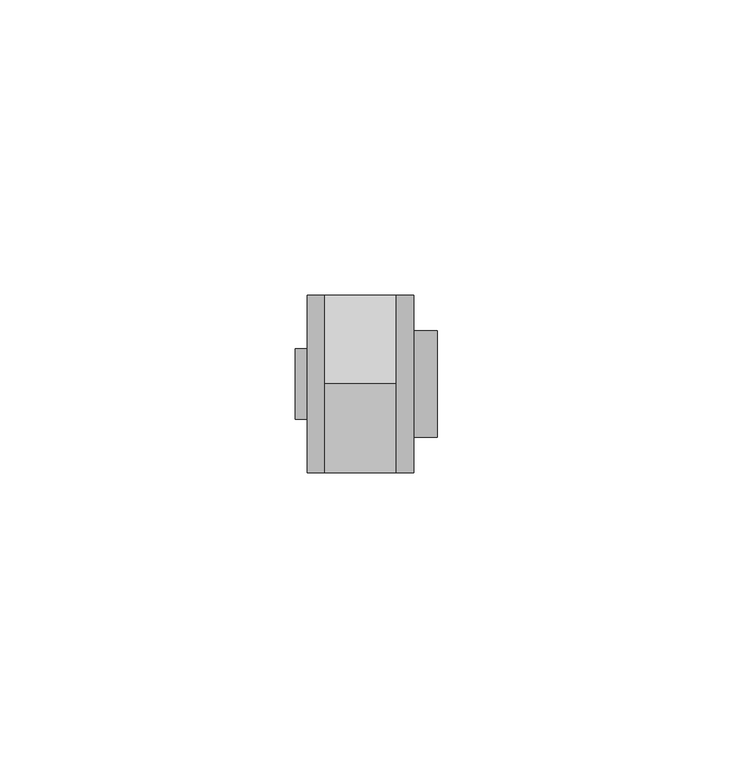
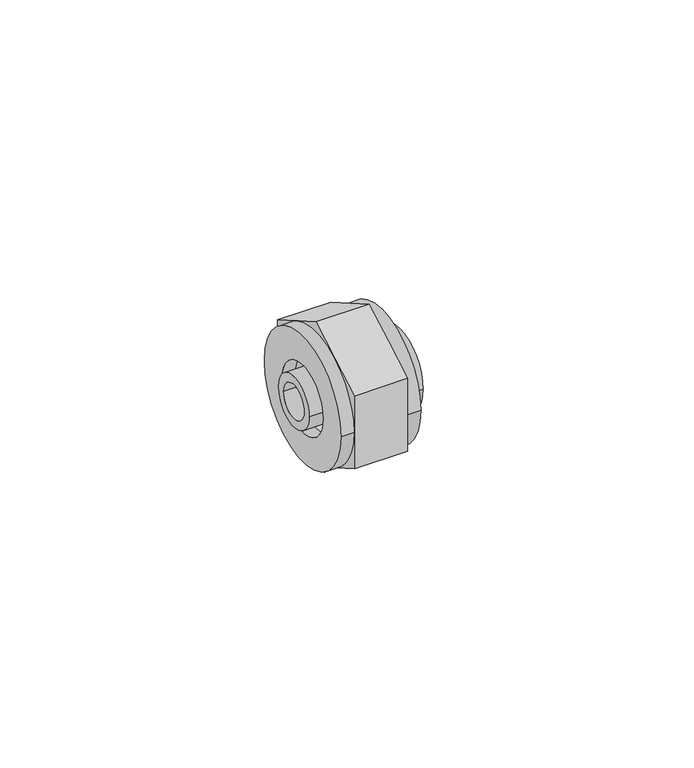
"""IFC4 building model written with IfcOpenShell, lengths in millimetres: pipe fitting geometry."""

from ifc_helpers import new_model, si_unit, point, frame, origin, origin_2d, place, context, project, spatial, polyline, circle_curve, trimmed, segment, composite_curve, outline, extrude, source, transform, mapped, element, save
from ifc_brep_helpers import plane_surface, cylinder_surface, revolved_surface, advanced_brep


def pipe_fitting_27357a6d(model_context):
    return source(origin(), model_context, "Body", "SolidModel", [
        extrude(outline(composite_curve([segment(trimmed(circle_curve(origin_2d(), 9.0), [point((-9.0, 0.0))], [point((9.0, 0.0))], False, "CARTESIAN"), True, "CONTINUOUS"), segment(trimmed(circle_curve(origin_2d(), 9.0), [point((9.0, 0.0))], [point((-9.0, 0.0))], False, "CARTESIAN"), True, "CONTINUOUS")], self_intersect=False), holes=[composite_curve([segment(trimmed(circle_curve(origin_2d(), 4.0), [point((4.0, 0.0))], [point((-4.0, 0.0))], True, "CARTESIAN"), True, "CONTINUOUS"), segment(trimmed(circle_curve(origin_2d(), 4.0), [point((-4.0, 0.0))], [point((4.0, 0.0))], True, "CARTESIAN"), True, "CONTINUOUS")], self_intersect=False)]), frame((0.0, 0.0, 0.0), z_axis=(1.0, 0.0, 0.0), x_axis=(0.0, 1.0, 0.0)), (0.0, 0.0, 1.0), 13.0),
        extrude(outline(composite_curve([segment(trimmed(circle_curve(origin_2d(), 6.0), [point((-6.0, 0.0))], [point((6.0, 0.0))], False, "CARTESIAN"), True, "CONTINUOUS"), segment(trimmed(circle_curve(origin_2d(), 6.0), [point((6.0, 0.0))], [point((-6.0, 0.0))], False, "CARTESIAN"), True, "CONTINUOUS")], self_intersect=False), holes=[composite_curve([segment(trimmed(circle_curve(origin_2d(), 4.0), [point((4.0, 0.0))], [point((-4.0, 0.0))], True, "CARTESIAN"), True, "CONTINUOUS"), segment(trimmed(circle_curve(origin_2d(), 4.0), [point((-4.0, 0.0))], [point((4.0, 0.0))], True, "CARTESIAN"), True, "CONTINUOUS")], self_intersect=False)]), frame((-11.0, 0.0, 0.0), z_axis=(1.0, 0.0, 0.0), x_axis=(0.0, 1.0, 0.0)), (0.0, 0.0, 1.0), 10.0),
        advanced_brep(
        [(-6.0, 0.0, -17.3205081), (-6.0, -7.5, -12.9903811), (-6.0, 7.5, -12.9903811), (-6.0, -15.0, -8.660254), (-6.0, -15.0, 0.0), (-6.0, -15.0, 8.660254), (-6.0, -7.5, 12.9903811), (-6.0, 0.0, 17.3205081), (-6.0, 7.5, 12.9903811), (-6.0, 15.0, 8.660254), (-6.0, 15.0, 0.0), (-6.0, 15.0, -8.660254), (6.0, 0.0, -17.3205081), (6.0, 7.5, -12.9903811), (6.0, -7.5, -12.9903811), (6.0, 15.0, -8.660254), (6.0, 15.0, 0.0), (6.0, 15.0, 8.660254), (6.0, 7.5, 12.9903811), (6.0, 0.0, 17.3205081), (6.0, -7.5, 12.9903811), (6.0, -15.0, 8.660254), (6.0, -15.0, 0.0), (6.0, -15.0, -8.660254), (9.0, -15.0, 0.0), (9.0, 15.0, 0.0), (9.0, -13.0, 0.0), (9.0, 13.0, 0.0), (-9.0, -15.0, 0.0), (-9.0, 15.0, 0.0), (-9.0, 8.0, 0.0), (-9.0, -8.0, 0.0), (0.0, -4.0, 0.0), (-1.0, -4.0, 0.0), (-1.0, 4.0, 0.0), (0.0, 4.0, 0.0), (0.0, -13.0, 0.0), (0.0, 13.0, 0.0), (-1.0, -8.0, 0.0), (-1.0, 8.0, 0.0), (-6.0, -8.0, 0.0), (-6.0, 8.0, 0.0)],
        [
            (0, 1),
            (1, 2, circle_curve(frame((-6.0, 0.0, 0.0), z_axis=(1.0, 0.0, 0.0), x_axis=(0.0, 1.0, 0.0)), 15.0)),
            (2, 0),
            (1, 3),
            (3, 4),
            (4, 1, circle_curve(frame((-6.0, 0.0, 0.0), z_axis=(1.0, 0.0, 0.0), x_axis=(0.0, 1.0, 0.0)), 15.0)),
            (4, 5),
            (5, 6),
            (6, 4, circle_curve(frame((-6.0, 0.0, 0.0), z_axis=(1.0, 0.0, 0.0), x_axis=(0.0, 1.0, 0.0)), 15.0)),
            (6, 7),
            (7, 8),
            (8, 6, circle_curve(frame((-6.0, 0.0, 0.0), z_axis=(1.0, 0.0, 0.0), x_axis=(0.0, 1.0, 0.0)), 15.0)),
            (8, 9),
            (9, 10),
            (10, 8, circle_curve(frame((-6.0, 0.0, 0.0), z_axis=(1.0, 0.0, 0.0), x_axis=(0.0, 1.0, 0.0)), 15.0)),
            (10, 11),
            (11, 2),
            (2, 10, circle_curve(frame((-6.0, 0.0, 0.0), z_axis=(1.0, 0.0, 0.0), x_axis=(0.0, 1.0, 0.0)), 15.0)),
            (12, 13),
            (13, 14, circle_curve(frame((6.0, 0.0, 0.0), z_axis=(-1.0, 0.0, 0.0), x_axis=(0.0, 1.0, 0.0)), 15.0)),
            (14, 12),
            (13, 15),
            (15, 16),
            (16, 13, circle_curve(frame((6.0, 0.0, 0.0), z_axis=(-1.0, 0.0, 0.0), x_axis=(0.0, 1.0, 0.0)), 15.0)),
            (16, 17),
            (17, 18),
            (18, 16, circle_curve(frame((6.0, 0.0, 0.0), z_axis=(-1.0, 0.0, 0.0), x_axis=(0.0, 1.0, 0.0)), 15.0)),
            (18, 19),
            (19, 20),
            (20, 18, circle_curve(frame((6.0, 0.0, 0.0), z_axis=(-1.0, 0.0, 0.0), x_axis=(0.0, 1.0, 0.0)), 15.0)),
            (20, 21),
            (21, 22),
            (22, 20, circle_curve(frame((6.0, 0.0, 0.0), z_axis=(-1.0, 0.0, 0.0), x_axis=(0.0, 1.0, 0.0)), 15.0)),
            (22, 23),
            (23, 14),
            (14, 22, circle_curve(frame((6.0, 0.0, 0.0), z_axis=(-1.0, 0.0, 0.0), x_axis=(0.0, 1.0, 0.0)), 15.0)),
            (0, 12),
            (23, 3),
            (21, 5),
            (19, 7),
            (17, 9),
            (15, 11),
            (24, 25, circle_curve(frame((9.0, 0.0, 0.0), z_axis=(1.0, 0.0, 0.0), x_axis=(0.0, 1.0, 0.0)), 15.0)),
            (25, 24, circle_curve(frame((9.0, 0.0, 0.0), z_axis=(1.0, 0.0, 0.0), x_axis=(0.0, 1.0, 0.0)), 15.0)),
            (26, 27, circle_curve(frame((9.0, 0.0, 0.0), z_axis=(-1.0, 0.0, 0.0), x_axis=(0.0, 1.0, 0.0)), 13.0)),
            (27, 26, circle_curve(frame((9.0, 0.0, 0.0), z_axis=(-1.0, 0.0, 0.0), x_axis=(0.0, 1.0, 0.0)), 13.0)),
            (25, 16),
            (22, 24),
            (28, 29, circle_curve(frame((-9.0, 0.0, 0.0), z_axis=(-1.0, 0.0, 0.0), x_axis=(0.0, 1.0, 0.0)), 15.0)),
            (29, 28, circle_curve(frame((-9.0, 0.0, 0.0), z_axis=(-1.0, 0.0, 0.0), x_axis=(0.0, 1.0, 0.0)), 15.0)),
            (30, 31, circle_curve(frame((-9.0, 0.0, 0.0), z_axis=(1.0, 0.0, 0.0), x_axis=(0.0, 1.0, 0.0)), 8.0)),
            (31, 30, circle_curve(frame((-9.0, 0.0, 0.0), z_axis=(1.0, 0.0, 0.0), x_axis=(0.0, 1.0, 0.0)), 8.0)),
            (32, 33),
            (33, 34, circle_curve(frame((-1.0, 0.0, 0.0), z_axis=(-1.0, 0.0, 0.0), x_axis=(0.0, 1.0, 0.0)), 4.0)),
            (34, 35),
            (35, 32, circle_curve(frame((0.0, 0.0, 0.0), z_axis=(1.0, 0.0, 0.0), x_axis=(0.0, 1.0, 0.0)), 4.0)),
            (32, 35, circle_curve(frame((0.0, 0.0, 0.0), z_axis=(1.0, 0.0, 0.0), x_axis=(0.0, 1.0, 0.0)), 4.0)),
            (34, 33, circle_curve(frame((-1.0, 0.0, 0.0), z_axis=(-1.0, 0.0, 0.0), x_axis=(0.0, 1.0, 0.0)), 4.0)),
            (28, 4),
            (10, 29),
            (36, 37, circle_curve(frame((0.0, 0.0, 0.0), z_axis=(1.0, 0.0, 0.0), x_axis=(0.0, 1.0, 0.0)), 13.0)),
            (37, 36, circle_curve(frame((0.0, 0.0, 0.0), z_axis=(1.0, 0.0, 0.0), x_axis=(0.0, 1.0, 0.0)), 13.0)),
            (37, 27),
            (26, 36),
            (38, 39, circle_curve(frame((-1.0, 0.0, 0.0), z_axis=(-1.0, 0.0, 0.0), x_axis=(0.0, 1.0, 0.0)), 8.0)),
            (39, 38, circle_curve(frame((-1.0, 0.0, 0.0), z_axis=(-1.0, 0.0, 0.0), x_axis=(0.0, 1.0, 0.0)), 8.0)),
            (38, 40),
            (40, 41, circle_curve(frame((-6.0, 0.0, 0.0), z_axis=(-1.0, 0.0, 0.0), x_axis=(0.0, 1.0, 0.0)), 8.0)),
            (41, 39),
            (41, 40, circle_curve(frame((-6.0, 0.0, 0.0), z_axis=(-1.0, 0.0, 0.0), x_axis=(0.0, 1.0, 0.0)), 8.0)),
            (40, 31),
            (30, 41),
        ],
        [
            plane_surface(frame((-6.0, 0.0, 0.0), z_axis=(-1.0, 0.0, 0.0), x_axis=(0.0, 0.0, 1.0))),
            plane_surface(frame((6.0, 0.0, 0.0), z_axis=(1.0, 0.0, 0.0), x_axis=(0.0, 0.0, 1.0))),
            plane_surface(frame((-6.0, 0.0, -17.3205081), z_axis=(0.0, -0.5000000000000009, -0.8660254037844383), x_axis=(1.0, 0.0, 0.0))),
            plane_surface(frame((-6.0, -15.0, -8.660254), z_axis=(0.0, -1.0, 0.0), x_axis=(1.0, 0.0, 0.0))),
            plane_surface(frame((-6.0, -15.0, 8.660254), z_axis=(0.0, -0.49999999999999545, 0.8660254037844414), x_axis=(1.0, 0.0, 0.0))),
            plane_surface(frame((-6.0, 0.0, 17.3205081), z_axis=(0.0, 0.5000000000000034, 0.8660254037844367), x_axis=(1.0, 0.0, 0.0))),
            plane_surface(frame((-6.0, 15.0, 8.660254), z_axis=(0.0, 1.0, 0.0), x_axis=(1.0, 0.0, 0.0))),
            plane_surface(frame((-6.0, 15.0, -8.660254), z_axis=(0.0, 0.49999999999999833, -0.8660254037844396), x_axis=(1.0, 0.0, 0.0))),
            plane_surface(frame((9.0, 0.0, 0.0), z_axis=(1.0, 0.0, 0.0), x_axis=(0.0, 0.0, 1.0))),
            cylinder_surface(frame((6.0, 0.0, 0.0), z_axis=(-1.0, 0.0, 0.0), x_axis=(0.0, 1.0, 0.0)), 15.0),
            plane_surface(frame((-9.0, 0.0, 0.0), z_axis=(-1.0, 0.0, 0.0), x_axis=(0.0, 0.0, 1.0))),
            revolved_surface(polyline([(-1.0, 4.0, 0.0), (0.0, 4.0, 0.0)]), (-11.0, 0.0, 0.0), (-1.0, 0.0, 0.0)),
            cylinder_surface(frame((-9.0, 0.0, 0.0), z_axis=(-1.0, 0.0, 0.0), x_axis=(0.0, 1.0, 0.0)), 15.0),
            plane_surface(frame((0.0, 0.0, 0.0), z_axis=(1.0, 0.0, 0.0), x_axis=(0.0, 0.0, 1.0))),
            revolved_surface(polyline([(0.0, 13.0, 0.0), (9.0, 13.0, 0.0)]), (0.0, 0.0, 0.0), (-1.0, 0.0, 0.0)),
            plane_surface(frame((-1.0, 0.0, 0.0), z_axis=(-1.0, 0.0, 0.0), x_axis=(0.0, 0.0, 1.0))),
            revolved_surface(polyline([(-6.0, 8.0, 0.0), (-1.0, 8.0, 0.0)]), (-9.0, 0.0, 0.0), (-1.0, 0.0, 0.0)),
            revolved_surface(polyline([(-9.0, 8.0, 0.0), (-6.0, 8.0, 0.0)]), (-9.0, 0.0, 0.0), (-1.0, 0.0, 0.0)),
        ],
        [
            (0, [[1, 2, 3]]),
            (0, [[4, 5, 6]]),
            (0, [[7, 8, 9]]),
            (0, [[10, 11, 12]]),
            (0, [[13, 14, 15]]),
            (0, [[16, 17, 18]]),
            (1, [[19, 20, 21]]),
            (1, [[22, 23, 24]]),
            (1, [[25, 26, 27]]),
            (1, [[28, 29, 30]]),
            (1, [[31, 32, 33]]),
            (1, [[34, 35, 36]]),
            (2, [[37, -21, -35, 38, -4, -1]]),
            (3, [[-38, -34, -32, 39, -7, -5]]),
            (4, [[-39, -31, -29, 40, -10, -8]]),
            (5, [[-40, -28, -26, 41, -13, -11]]),
            (6, [[-41, -25, -23, 42, -16, -14]]),
            (7, [[-37, -3, -17, -42, -22, -19]]),
            (8, [[43, 44], [45, 46]]),
            (9, [[-44, 47, -27, -30, -33, 48]]),
            (9, [[-43, -48, -36, -20, -24, -47]]),
            (10, [[49, 50], [51, 52]]),
            (11, [[53, 54, 55, 56]]),
            (11, [[-53, 57, -55, 58]]),
            (12, [[-49, 59, -9, -12, -15, 60]]),
            (12, [[-50, -60, -18, -2, -6, -59]]),
            (13, [[61, 62], [-56, -57]]),
            (14, [[-62, 63, -45, 64]]),
            (14, [[-61, -64, -46, -63]]),
            (15, [[65, 66], [-54, -58]]),
            (16, [[-65, 67, 68, 69]]),
            (16, [[-66, -69, 70, -67]]),
            (17, [[71, -51, 72, -68]]),
            (17, [[-71, -70, -72, -52]]),
        ],
    ),
    ])


if __name__ == "__main__":
    model = new_model("IFC4")
    model_context = context("Model", 3, world=origin())
    ifc_project = project(units=[si_unit("LENGTHUNIT", "METRE", prefix="MILLI")], contexts=[model_context])
    site = spatial("IfcSite", under=ifc_project)
    building = spatial("IfcBuilding", under=site)
    placement = place(None, origin())
    pipe_fitting_shape = pipe_fitting_27357a6d(model_context)
    element("IfcPipeFitting", 1, ObjectType="USYSTEMS_Штуцер с внутренней резьбой_FlexX_PEX : 16x2,0 x 3/4\" ВР Евроконус", at=placement, inside=building, context=model_context, shape_type="MappedRepresentation", body=[
        mapped(pipe_fitting_shape, transform((0.0, 0.0, 0.0), x_axis=(1.0, 0.0, 0.0), y_axis=(0.0, 1.0, 0.0), z_axis=(0.0, 0.0, 1.0))),
    ])
    save(model, "model.ifc")
